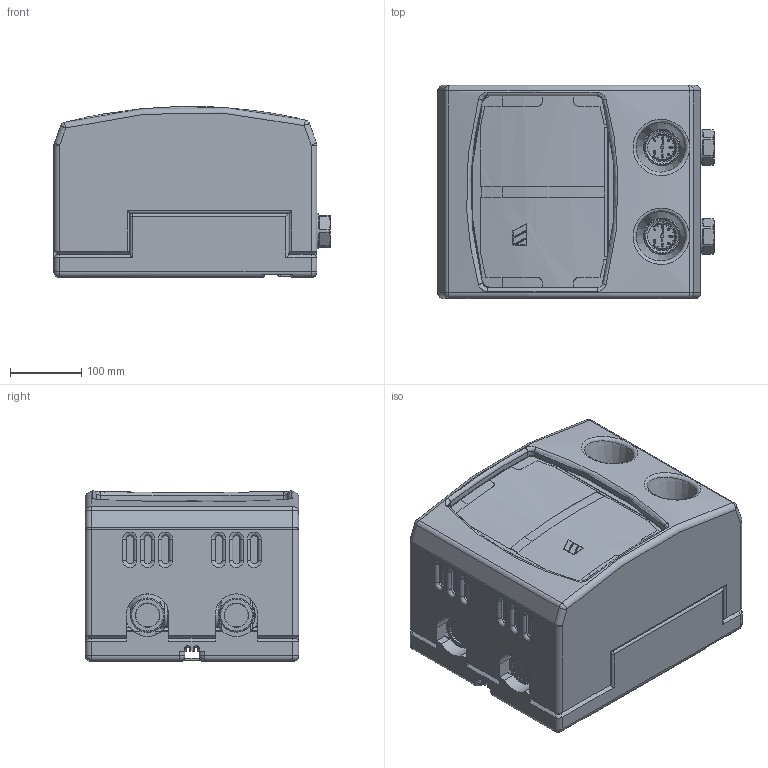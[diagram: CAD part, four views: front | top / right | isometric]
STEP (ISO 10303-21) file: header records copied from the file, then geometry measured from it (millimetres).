
FILE_DESCRIPTION((''),'2;1');
FILE_NAME('C:\Users\Moreuih\Desktop\HKM DN32\HKM-DN32.stp','2016-08-30T10:26:46',('Moreuih'),(''),'Autodesk Inventor 2013','Autodesk Inventor 2013','');
FILE_SCHEMA(('AUTOMOTIVE_DESIGN { 1 2 10303 214 0 1 1 1 }'));
Length unit declared in the file: millimetre
Products named in the file (7): Baugruppe12; insulation-back; hydraulic-HKM-DN32; insulation-middle-fronts; pump-DN32; Stellmotor Watts Classic; fittings-DN32
Assembly tree (6 placements, depth 2):
  Baugruppe12
    insulation-back
    hydraulic-HKM-DN32
    insulation-middle-fronts
    pump-DN32
    Stellmotor Watts Classic
    fittings-DN32
Bounding box: 388.71 x 300 x 240.25 mm (x, y, z)
Volume: 24034239.2 mm3; surface area: 1463726.4 mm2
Topology: 8 solids, 15 shells, 6482 faces, 16706 edges, 10518 vertices
Faces by surface type: plane 2860, bspline 1611, cylinder 1065, torus 437, cone 355, sphere 102, revolution 52
Full cylindrical faces by diameter (mm): 2.601 x2, 4 x5, 4.02 x2, 5 x3, 9 x1, 9.3 x4, 9.85 x4, 12 x2, 14 x2, 21 x2, 21.7 x1, 23 x2, 23.4 x4, 26.441 x2, 29 x2, 33 x2, 35 x2, 36 x1, 37 x1, 38 x1, 38.5 x1, 38.952 x2, 40 x5, 41.91 x1, 43 x2, 43.5 x1, 46 x2, 46.5 x2, 47.803 x2, 48 x1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
Entity records: 250900 total; most frequent: CARTESIAN_POINT 97921, ORIENTED_EDGE 32692, DIRECTION 26574, EDGE_CURVE 16346, VERTEX_POINT 10430, AXIS2_PLACEMENT_3D 9309, VECTOR 7904, LINE 7904
